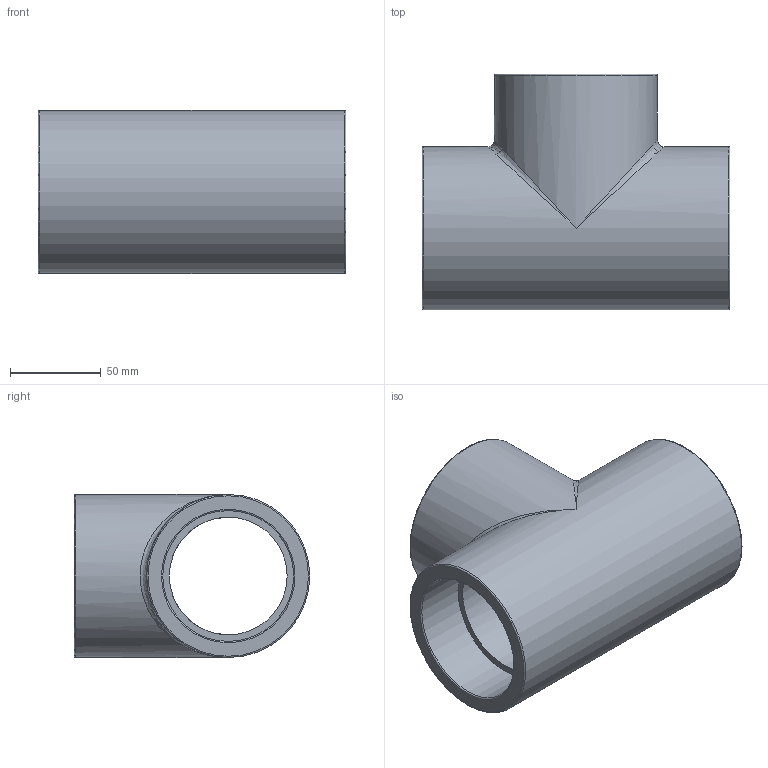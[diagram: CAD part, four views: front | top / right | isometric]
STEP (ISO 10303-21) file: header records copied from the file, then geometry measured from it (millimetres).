
FILE_DESCRIPTION(/* description */ ('PLASSON THREADED TEE PVC 2.1/2"'),/* implementation_level */ '2;1');
FILE_NAME(/* name */ 'C:\Dropbox\KIMPROJECTS-Inventor\99-16-3568-Processing\PVC Catalog 2017\050401\050401025.ipt.stp',/* time_stamp */ '2017-12-07T15:55:02+02:00',/* author */ ('KIM'),/* organization */ (''),/* preprocessor_version */ 'ST-DEVELOPER v15.6',/* originating_system */ 'Autodesk Inventor 2015',/* authorisation */ '');
FILE_SCHEMA (('AUTOMOTIVE_DESIGN { 1 0 10303 214 3 1 1 }'));
Length unit declared in the file: millimetre
Products named in the file (1): 050401025
Bounding box: 170 x 130 x 90 mm (x, y, z)
Volume: 556983.1 mm3; surface area: 110054.9 mm2
Topology: 1 solids, 1 shells, 20 faces, 46 edges, 26 vertices
Faces by surface type: cylinder 7, plane 6, torus 5, bspline 2
Full cylindrical faces by diameter (mm): 65.003 x2, 72.226 x3, 90 x2
Entity records: 570 total; most frequent: CARTESIAN_POINT 183, DIRECTION 84, ORIENTED_EDGE 46, AXIS2_PLACEMENT_3D 42, EDGE_LOOP 40, EDGE_CURVE 23, VERTEX_POINT 21, FACE_BOUND 20
